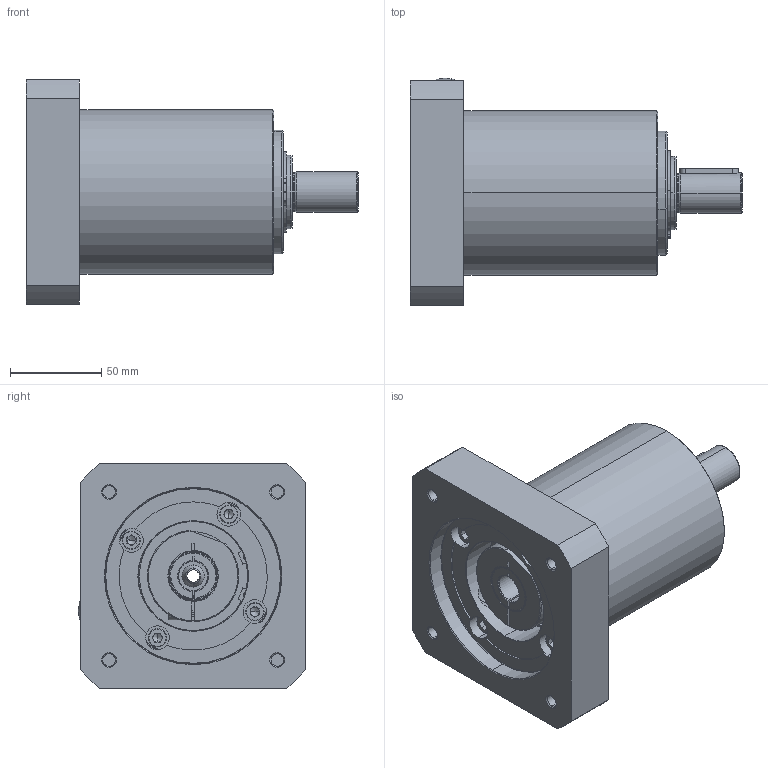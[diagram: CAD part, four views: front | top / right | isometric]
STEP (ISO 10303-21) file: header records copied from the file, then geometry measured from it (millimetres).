
FILE_DESCRIPTION (( 'STEP AP214' ), '1' );
FILE_NAME ('AL-020-RRR-FFF-MMM-S-LL-XXX-BXX-0000.STEP', '2019-10-23T15:27:24', ( '' ), ( '' ), 'SwSTEP 2.0', 'SolidWorks 2019', '' );
FILE_SCHEMA (( 'AUTOMOTIVE_DESIGN' ));
Length unit declared in the file: millimetre
Products named in the file (1): AL-020-RRR-FFF-MMM-S-LL-XXX-BXX-0000
Bounding box: 181.5 x 124.27 x 123 mm (x, y, z)
Surface area: 103318.5 mm2 (no closed solid volume)
Topology: 0 solids, 20 shells, 265 faces, 845 edges, 576 vertices
Faces by surface type: cylinder 90, plane 80, cone 57, torus 33, bspline 3, sphere 2
Entity records: 12783 total; most frequent: CARTESIAN_POINT 2448, DIRECTION 1637, ORIENTED_EDGE 1357, EDGE_CURVE 837, AXIS2_PLACEMENT_3D 640, VERTEX_POINT 576, CIRCLE 377, LINE 357
